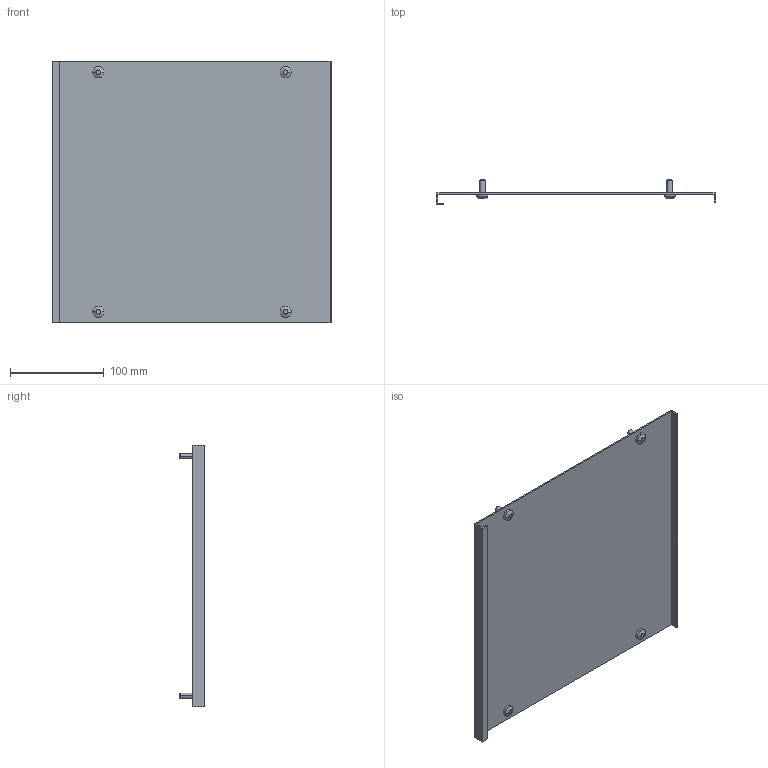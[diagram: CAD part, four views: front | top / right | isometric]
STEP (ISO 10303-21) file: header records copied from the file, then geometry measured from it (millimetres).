
FILE_DESCRIPTION (( 'STEP AP214' ), '1' );
FILE_NAME ('FO-00-PVS-030-040 Ïëàñòðîí ãëóõîé âíóòðåííèé 300õ400.STEP', '2025-09-30T07:38:18', ( '' ), ( '' ), 'SwSTEP 2.0', 'SolidWorks 2023', '' );
FILE_SCHEMA (( 'AUTOMOTIVE_DESIGN' ));
Length unit declared in the file: millimetre
Products named in the file (3): FO-00-PVS-030-040 Пластрон глухой внутренний 300х400; Винт M6x16 30-040 IEK
Assembly tree (3 placements, depth 2):
  FO-00-PVS-030-040 Пластрон глухой внутренний 300х400
    FO-00-PVS-030-040 Пластрон глухой внутренний 300х400
    Винт M6x16 30-040 IEK  x2
Bounding box: 298 x 27 x 279 mm (x, y, z)
Volume: 138438.5 mm3; surface area: 184983.5 mm2
Topology: 5 solids, 5 shells, 150 faces, 392 edges, 256 vertices
Faces by surface type: cylinder 88, plane 42, cone 12, bspline 8
Entity records: 3233 total; most frequent: CARTESIAN_POINT 724, ORIENTED_EDGE 512, DIRECTION 500, EDGE_CURVE 256, AXIS2_PLACEMENT_3D 180, VERTEX_POINT 168, LINE 140, VECTOR 140
